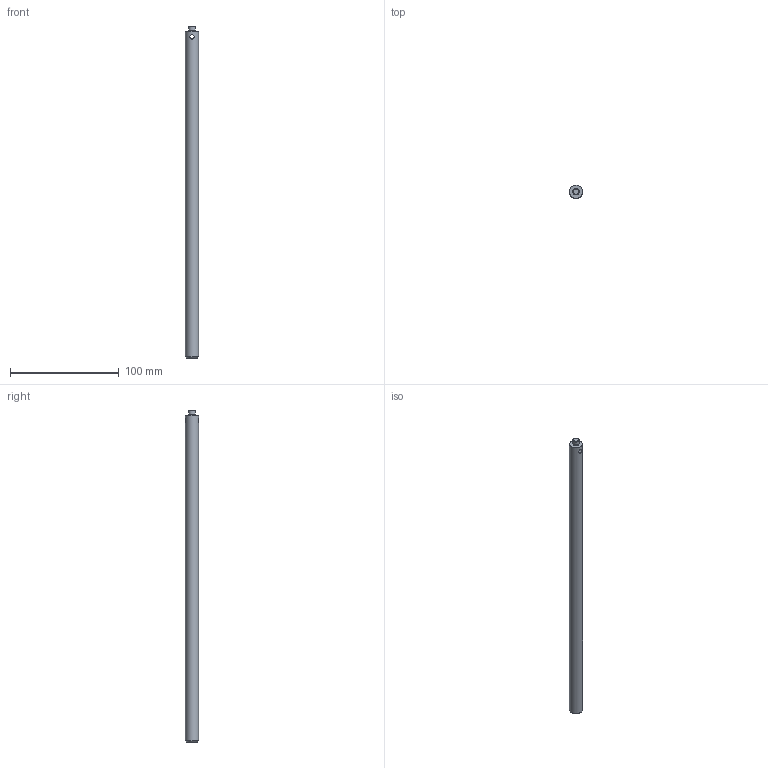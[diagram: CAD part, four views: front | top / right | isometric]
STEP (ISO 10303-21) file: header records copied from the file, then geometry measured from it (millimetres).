
FILE_DESCRIPTION((''),'2;1');
FILE_NAME('S:\1規格品図面ﾃﾞｰﾀ\OpticalHard\01_国内製品\3_Bases\RO\RO-12\RO-12-300\RO-12-300.stp','2007-10-23T16:25:56',('okegawa'),(''),'Autodesk Inventor 11','Autodesk Inventor 11','');
FILE_SCHEMA(('AUTOMOTIVE_DESIGN { 1 0 10303 214 1 1 1 1 }'));
Length unit declared in the file: millimetre
Products named in the file (1): RO-12-300-01-S01
Bounding box: 12 x 12 x 305 mm (x, y, z)
Volume: 33891.5 mm3; surface area: 11735.5 mm2
Topology: 1 solids, 1 shells, 10 faces, 18 edges, 12 vertices
Faces by surface type: cylinder 4, plane 4, cone 2
Full cylindrical faces by diameter (mm): 4 x1, 5 x1, 6 x1, 12 x1
Entity records: 355 total; most frequent: CARTESIAN_POINT 156, DIRECTION 38, ORIENTED_EDGE 22, EDGE_LOOP 20, AXIS2_PLACEMENT_3D 19, VERTEX_POINT 11, EDGE_CURVE 11, FACE_OUTER_BOUND 10
